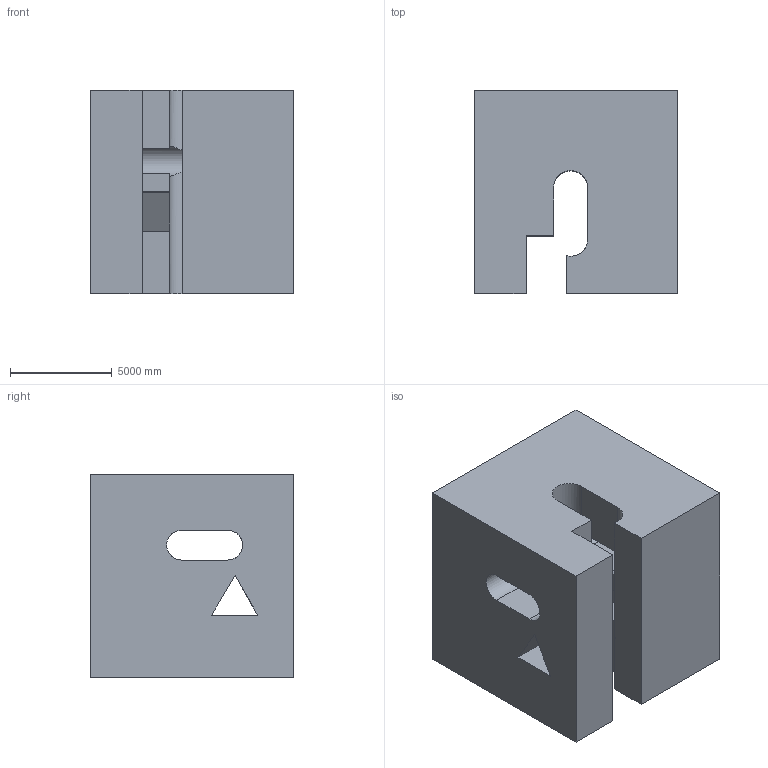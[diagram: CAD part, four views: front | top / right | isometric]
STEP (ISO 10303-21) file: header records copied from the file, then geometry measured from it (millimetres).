
FILE_DESCRIPTION (( 'STEP AP203' ), '1' );
FILE_NAME ('330.STEP', '2022-07-28T14:22:04', ( 'user' ), ( '' ), 'SwSTEP 2.0', 'SolidWorks 2021', '' );
FILE_SCHEMA (( 'CONFIG_CONTROL_DESIGN' ));
Length unit declared in the file: centimetre
Products named in the file (1): 330
Bounding box: 10000 x 10000 x 10000 mm (x, y, z)
Volume: 824493014044.2 mm3; surface area: 803244703.7 mm2
Topology: 1 solids, 1 shells, 33 faces, 105 edges, 70 vertices
Faces by surface type: plane 26, cylinder 7
Entity records: 1491 total; most frequent: CARTESIAN_POINT 459, ORIENTED_EDGE 210, DIRECTION 187, EDGE_CURVE 105, VECTOR 83, LINE 83, VERTEX_POINT 70, AXIS2_PLACEMENT_3D 52
